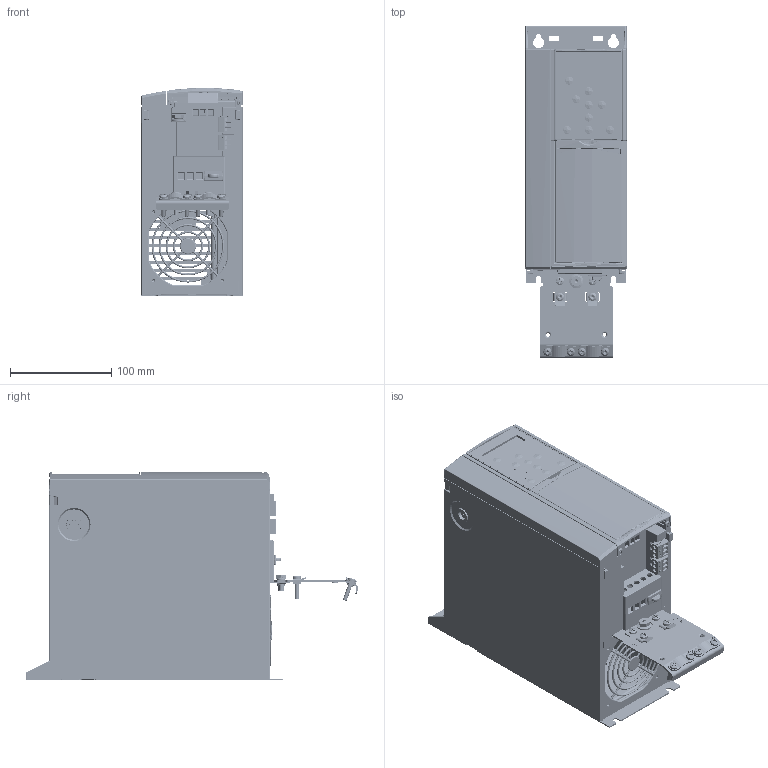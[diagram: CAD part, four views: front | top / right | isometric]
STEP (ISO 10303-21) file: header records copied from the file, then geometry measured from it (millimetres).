
FILE_DESCRIPTION((''),'2;1');
FILE_NAME('ASM0001_ASM','2012-01-11T',('U255134'),('Danfoss Power Electronics'),'PRO/ENGINEER BY PARAMETRIC TECHNOLOGY CORPORATION, 2010370','PRO/ENGINEER BY PARAMETRIC TECHNOLOGY CORPORATION, 2010370','');
FILE_SCHEMA(('CONFIG_CONTROL_DESIGN', 'GEOMETRIC_VALIDATION_PROPERTIES_MIM'));
Products named in the file (31): PRT0004; ASM0004_ASM; PRT0006; PRT0007; ASM0005_ASM; PRT0011; PRT0030; ASM0008_ASM; PRT0032; PRT0033; ASM0006_ASM; PRT0034; PRT0035; PRT0036; PRT0037; PRT0038; ASM0009_ASM; PRT0039; PRT0040; PRT0041; PRT0042; ASM0010_ASM; PRT0043; PRT0044; ASM0011_ASM; PRT0045; PRT0046; ASM0003_ASM; ASM0002_ASM; BB; ASM0001_ASM
Assembly tree (40 placements, depth 6):
  ASM0001_ASM
    ASM0002_ASM
      ASM0003_ASM
        PRT0004
        ASM0004_ASM
          PRT0004
        PRT0006
        ASM0005_ASM
          PRT0007
        PRT0011
        ASM0006_ASM
          ASM0008_ASM
            PRT0030
          PRT0032
          PRT0033
        PRT0034  x2
        ASM0009_ASM
          PRT0035
          PRT0036  x2
          PRT0037  x6
          PRT0038  x2
        PRT0039
        PRT0040
        ASM0010_ASM
          PRT0041
          PRT0042
        ASM0011_ASM
          PRT0043
          PRT0044
        PRT0045
        PRT0046  x2
    BB
Bounding box: 100 x 328.45 x 205.81 mm (x, y, z)
Volume: 266171.7 mm3; surface area: 655144.2 mm2
Topology: 30 solids, 72 shells, 16538 faces, 45911 edges, 29777 vertices
Faces by surface type: plane 11925, cylinder 2885, bspline 673, torus 406, cone 345, sphere 304
Entity records: 616187 total; most frequent: CARTESIAN_POINT 172609, ORIENTED_EDGE 87343, DIRECTION 71621, EDGE_CURVE 43996, VERTEX_POINT 28643, VECTOR 28151, LINE 28151, AXIS2_PLACEMENT_3D 21735
